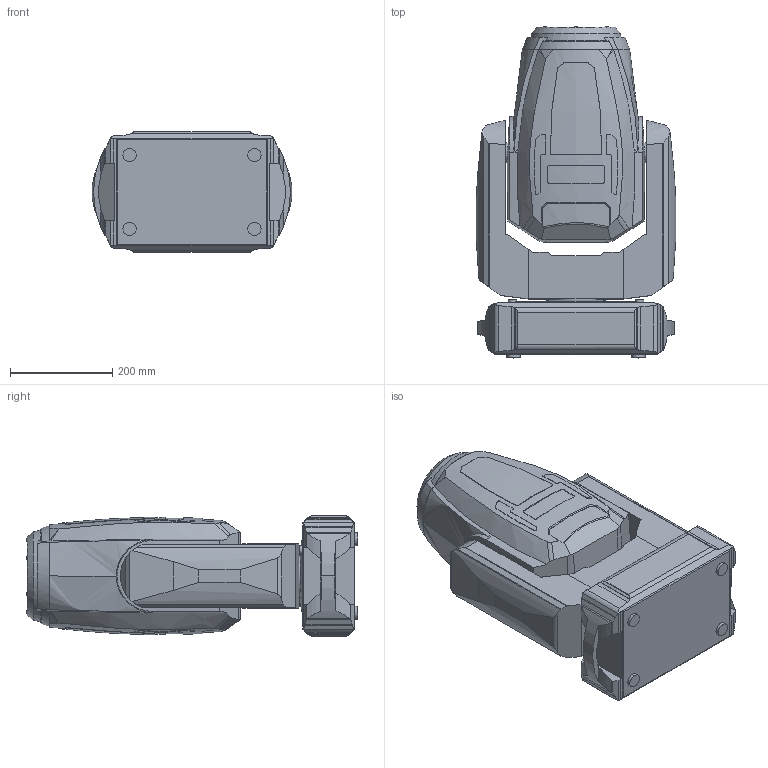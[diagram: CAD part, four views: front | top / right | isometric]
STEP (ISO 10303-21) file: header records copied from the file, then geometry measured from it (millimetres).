
FILE_DESCRIPTION(/* description */ ('Unknown'),/* implementation_level */ '2;1');
FILE_NAME(/* name */ '3D_iPainte',/* time_stamp */ '2023-11-06T14:09:18+01:00',/* author */ ('Unknown'),/* organization */ ('Unknown'),/* preprocessor_version */ 'ST-DEVELOPER v18.104',/* originating_system */ 'Solid Edge',/* authorisation */ 'Unknown');
FILE_SCHEMA (('MODEL_BASED_INTEGRATED_MANUFACTURING_SCHEMA','AUTOMOTIVE_DESIGN {1 0 10303 214 3 1 1}'));
Length unit declared in the file: millimetre
Products named in the file (1): 3D_iPainte
Bounding box: 390 x 649 x 235.45 mm (x, y, z)
Volume: 33304429.1 mm3; surface area: 996748.7 mm2
Topology: 1 solids, 1 shells, 431 faces, 1217 edges, 809 vertices
Faces by surface type: plane 161, cylinder 110, bspline 66, cone 60, sphere 28, torus 6
Full cylindrical faces by diameter (mm): 7 x6, 17 x2, 26 x4, 40 x2, 80 x1, 92 x1
Entity records: 17547 total; most frequent: CARTESIAN_POINT 7821, ORIENTED_EDGE 2366, DIRECTION 1451, EDGE_CURVE 1183, VERTEX_POINT 796, B_SPLINE_CURVE_WITH_KNOTS 648, AXIS2_PLACEMENT_3D 550, EDGE_LOOP 479
